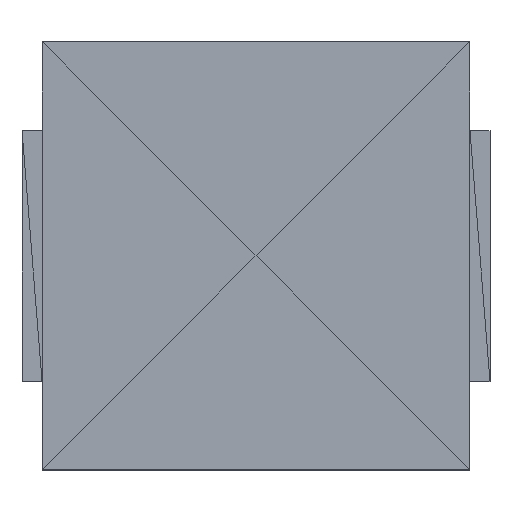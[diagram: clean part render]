
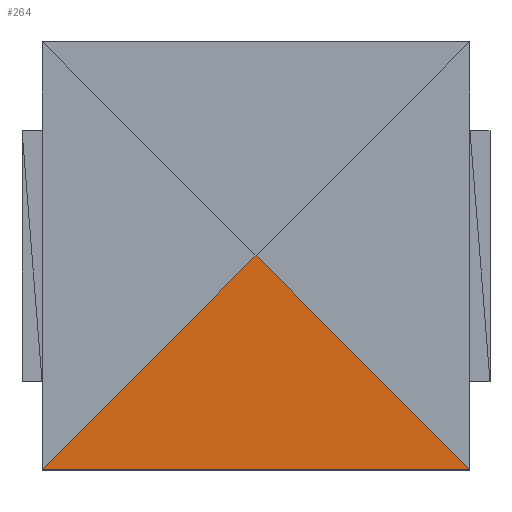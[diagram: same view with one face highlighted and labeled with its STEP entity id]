
A CAD part, top view. The second image highlights one B-rep face of the part: STEP entity #264.
In plain terms, the highlighted planar face has unit normal (0, 0, 1).
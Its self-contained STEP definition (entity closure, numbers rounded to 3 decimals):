
#264=ADVANCED_FACE('',(#265),#291,.F.);
#265=FACE_OUTER_BOUND('',#266,.T.);
#266=EDGE_LOOP('',(#267,#269,#271));
#267=ORIENTED_EDGE('',*,*,#268,.T.);
#268=EDGE_CURVE('',#273,#275,#277,.T.);
#269=ORIENTED_EDGE('',*,*,#270,.T.);
#270=EDGE_CURVE('',#275,#281,#283,.T.);
#271=ORIENTED_EDGE('',*,*,#272,.T.);
#272=EDGE_CURVE('',#281,#273,#287,.T.);
#273=VERTEX_POINT('',#274);
#274=CARTESIAN_POINT('',(0.0,0.0,3.099));
#275=VERTEX_POINT('',#276);
#276=CARTESIAN_POINT('',(3.251,-3.251,3.099));
#277=LINE('',#278,#279);
#278=CARTESIAN_POINT('',(0.0,0.0,3.099));
#279=VECTOR('',#280,1.0);
#280=DIRECTION('',(-0.707,0.707,0.0));
#281=VERTEX_POINT('',#282);
#282=CARTESIAN_POINT('',(-3.251,-3.251,3.099));
#283=LINE('',#284,#285);
#284=CARTESIAN_POINT('',(3.251,-3.251,3.099));
#285=VECTOR('',#286,1.0);
#286=DIRECTION('',(1.0,0.0,0.0));
#287=LINE('',#288,#289);
#288=CARTESIAN_POINT('',(-3.251,-3.251,3.099));
#289=VECTOR('',#290,1.0);
#290=DIRECTION('',(-0.707,-0.707,0.0));
#291=PLANE('',#292);
#292=AXIS2_PLACEMENT_3D('',#293,#294,#295);
#293=CARTESIAN_POINT('',(3.251,-3.251,3.099));
#294=DIRECTION('',(0.0,0.0,-1.0));
#295=DIRECTION('',(0.707,0.707,0.0));
